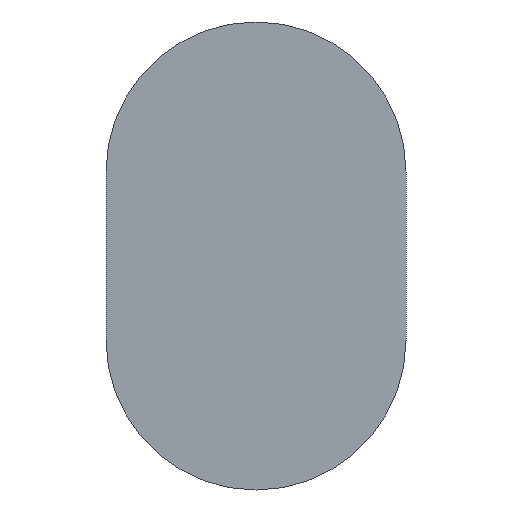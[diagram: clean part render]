
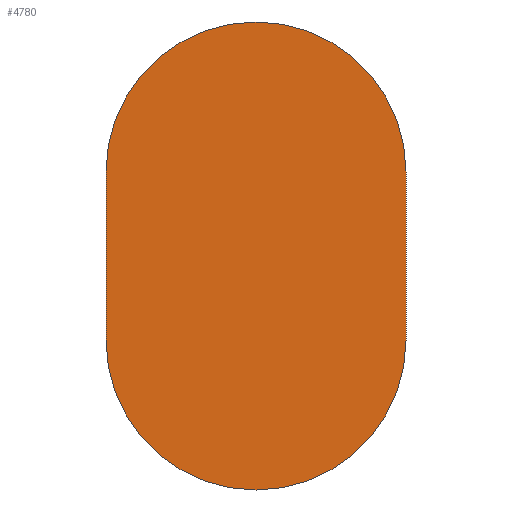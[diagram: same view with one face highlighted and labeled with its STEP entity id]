
A CAD part, front view. The second image highlights one B-rep face of the part: STEP entity #4780.
In plain terms, the highlighted planar face has unit normal (0, -1, 0).
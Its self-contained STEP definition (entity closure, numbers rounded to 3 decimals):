
#1456=DIRECTION('',(0.,0.,1.));
#1457=VECTOR('',#1456,70.);
#1458=CARTESIAN_POINT('',(-62.5,20.,-53.5));
#1459=LINE('',#1458,#1457);
#1460=CARTESIAN_POINT('',(0.,20.,16.5));
#1461=DIRECTION('',(0.,1.,0.));
#1462=DIRECTION('',(-1.,0.,0.));
#1463=AXIS2_PLACEMENT_3D('',#1460,#1461,#1462);
#1465=DIRECTION('',(0.,0.,-1.));
#1466=VECTOR('',#1465,70.);
#1467=CARTESIAN_POINT('',(62.5,20.,16.5));
#1468=LINE('',#1467,#1466);
#1469=CARTESIAN_POINT('',(0.,20.,-53.5));
#1470=DIRECTION('',(0.,1.,0.));
#1471=DIRECTION('',(1.,0.,0.));
#1472=AXIS2_PLACEMENT_3D('',#1469,#1470,#1471);
#2484=CARTESIAN_POINT('',(-62.5,20.,-53.5));
#2485=CARTESIAN_POINT('',(-62.5,20.,16.5));
#2486=VERTEX_POINT('',#2484);
#2487=VERTEX_POINT('',#2485);
#2488=CARTESIAN_POINT('',(62.5,20.,16.5));
#2489=CARTESIAN_POINT('',(62.5,20.,-53.5));
#2490=VERTEX_POINT('',#2488);
#2491=VERTEX_POINT('',#2489);
#4769=CARTESIAN_POINT('',(0.,20.,-21.));
#4770=DIRECTION('',(0.,1.,0.));
#4771=DIRECTION('',(1.,0.,0.));
#4772=AXIS2_PLACEMENT_3D('',#4769,#4770,#4771);
#4773=PLANE('',#4772);
#4774=ORIENTED_EDGE('',*,*,#4736,.T.);
#4775=ORIENTED_EDGE('',*,*,#4750,.T.);
#4776=ORIENTED_EDGE('',*,*,#4763,.T.);
#4777=ORIENTED_EDGE('',*,*,#4721,.T.);
#4778=EDGE_LOOP('',(#4774,#4775,#4776,#4777));
#4779=FACE_OUTER_BOUND('',#4778,.F.);
#4780=ADVANCED_FACE('',(#4779),#4773,.F.);
#1464=CIRCLE('',#1463,62.5);
#1473=CIRCLE('',#1472,62.5);
#4721=EDGE_CURVE('',#2491,#2486,#1473,.T.);
#4736=EDGE_CURVE('',#2486,#2487,#1459,.T.);
#4750=EDGE_CURVE('',#2487,#2490,#1464,.T.);
#4763=EDGE_CURVE('',#2490,#2491,#1468,.T.);
